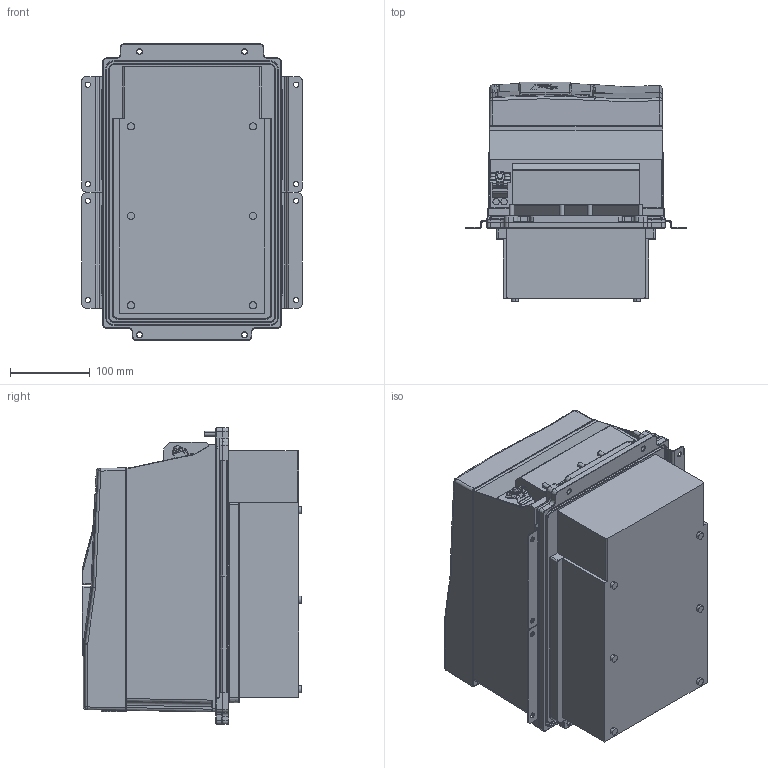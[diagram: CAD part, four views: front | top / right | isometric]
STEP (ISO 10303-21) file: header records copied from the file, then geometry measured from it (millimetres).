
FILE_DESCRIPTION (( 'STEP AP214' ), '1' );
FILE_NAME ('F6-4TR5-P050.STEP', '2020-12-08T13:22:15', ( '' ), ( '' ), 'SwSTEP 2.0', 'SolidWorks 2019', '' );
FILE_SCHEMA (( 'AUTOMOTIVE_DESIGN' ));
Length unit declared in the file: millimetre
Products named in the file (11): F6-4TR5-P050; 10045811_000_Leistungsteil TR5 (Kundenmodell); 10059762_000_Kundenmodell mit Geberbuchsen; 10061645_000; 10061787_000; 10058448_000; 10051076_000_Kundenmodell; 10061644_000_Deckel (Kundenmodell); 10059765_000; 10032600_000_Kundenmodell; 10059764_000_Blindabdeckung (Kundenmodell)
Assembly tree (10 placements, depth 4):
  F6-4TR5-P050
    10045811_000_Leistungsteil TR5 (Kundenmodell)
      10061787_000
    10032600_000_Kundenmodell
      10061644_000_Deckel (Kundenmodell)
        10061645_000
      10058448_000
    10051076_000_Kundenmodell
      10059764_000_Blindabdeckung (Kundenmodell)
        10059765_000
      10059762_000_Kundenmodell mit Geberbuchsen
Bounding box: 277 x 276.2 x 373 mm (x, y, z)
Volume: 17475812.7 mm3; surface area: 899283.9 mm2
Topology: 14 solids, 31 shells, 2500 faces, 6443 edges, 4015 vertices
Faces by surface type: plane 1031, cylinder 636, bspline 527, torus 159, cone 107, sphere 40
Entity records: 97090 total; most frequent: CARTESIAN_POINT 39303, ORIENTED_EDGE 12768, DIRECTION 10651, EDGE_CURVE 6384, VERTEX_POINT 4013, AXIS2_PLACEMENT_3D 3560, LINE 3531, VECTOR 3531
